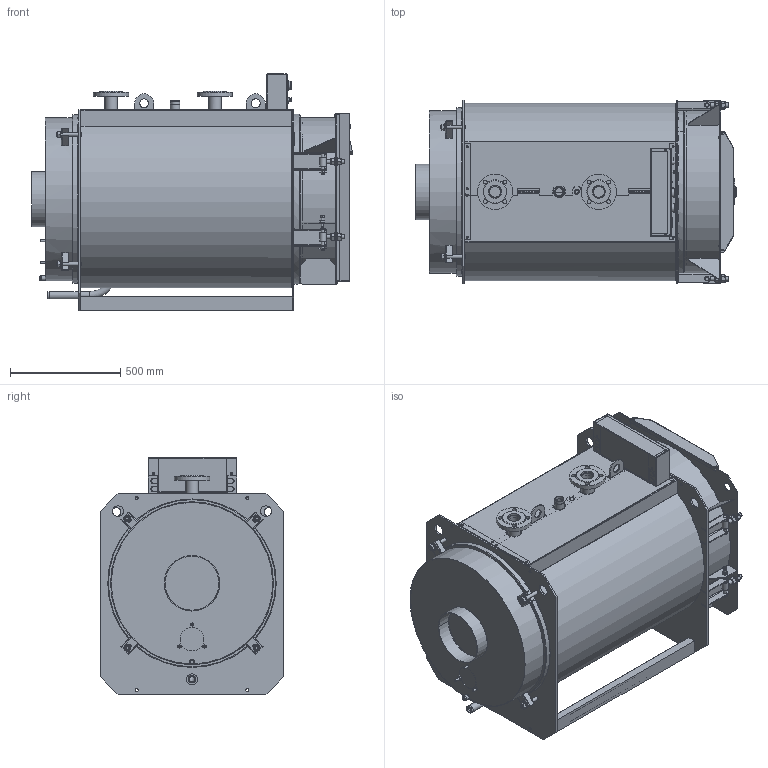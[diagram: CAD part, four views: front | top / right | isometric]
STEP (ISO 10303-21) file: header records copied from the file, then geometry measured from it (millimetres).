
FILE_DESCRIPTION(('STEP AP242'), '1');
FILE_NAME('Òèòàí Ïðîì 150 êÂò', '2026-01-12T13:27:42', (''), (''), 'ASCON STEP Converter 1.6', 'ASCON Math Kernel', '');
FILE_SCHEMA(('AP242_MANAGED_MODEL_BASED_3D_ENGINEERING_MIM_LF { 1 0 10303 442 1 1 4 }'));
Length unit declared in the file: millimetre
Products named in the file (1): КЕВМ.3136.00.00.000-02 (150)
Bounding box: 1453.26 x 830 x 1073.16 mm (x, y, z)
Volume: 21366633.6 mm3; surface area: 15037406.1 mm2
Topology: 65 solids, 66 shells, 4285 faces, 10854 edges, 6976 vertices
Faces by surface type: plane 2588, cylinder 1333, cone 158, bspline 156, torus 24, sphere 18, extrusion 8
Full cylindrical faces by diameter (mm): 1.9 x1, 2 x18, 2.5 x1, 3 x8, 3.5 x5, 3.6 x4, 4 x8, 4.1 x10, 4.2 x4, 4.5 x8, 4.8 x1, 5 x22, 6 x5, 7 x2, 7.6 x1, 8 x6, 8.376 x1, 8.5 x2, 9 x2, 9.25 x12, 9.728 x1, 10 x5, 10.5 x4, 11 x1, 12 x11, 13 x12, 13.835 x5, 14 x4, 14.5 x1, 15 x1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
Entity records: 218584 total; most frequent: CARTESIAN_POINT 81927, ORIENTED_EDGE 20690, DIRECTION 20522, EDGE_CURVE 10345, AXIS2_PLACEMENT_3D 7079, VERTEX_POINT 6955, VECTOR 6364, LINE 6356
